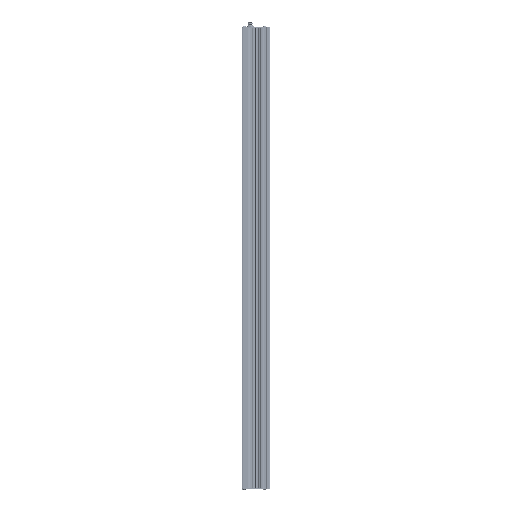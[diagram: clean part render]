
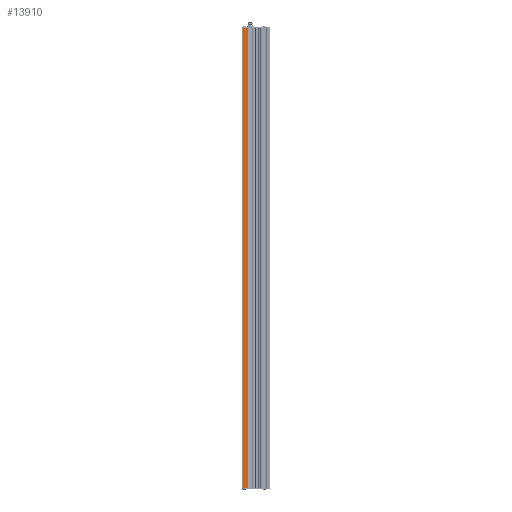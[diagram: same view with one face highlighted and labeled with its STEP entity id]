
A CAD part, left-side view. The second image highlights one B-rep face of the part: STEP entity #13910.
In plain terms, the highlighted planar face has unit normal (-1, 0, 0).
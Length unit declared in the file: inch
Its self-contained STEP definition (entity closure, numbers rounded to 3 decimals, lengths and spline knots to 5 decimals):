
#1418 = DIRECTION ( 'NONE',  ( 1., 0., 0. ) ) ;
#1548 = LINE ( 'NONE', #34040, #38209 ) ;
#1861 = VECTOR ( 'NONE', #26598, 39.37008 ) ;
#2392 = EDGE_CURVE ( 'NONE', #5854, #35850, #1548, .T. ) ;
#5440 = DIRECTION ( 'NONE',  ( 0., 0., -1. ) ) ;
#5854 = VERTEX_POINT ( 'NONE', #27843 ) ;
#7768 = ORIENTED_EDGE ( 'NONE', *, *, #13180, .F. ) ;
#10304 = FACE_OUTER_BOUND ( 'NONE', #37023, .T. ) ;
#11590 = CARTESIAN_POINT ( 'NONE',  ( -1.76811, 1.342, 23.5 ) ) ;
#13180 = EDGE_CURVE ( 'NONE', #23845, #32343, #25837, .T. ) ;
#13449 = DIRECTION ( 'NONE',  ( 0., 1., 0. ) ) ;
#13746 = VECTOR ( 'NONE', #29113, 39.37008 ) ;
#13910 = ADVANCED_FACE ( 'NONE', ( #10304 ), #22309, .F. ) ;
#15159 = VECTOR ( 'NONE', #5440, 39.37008 ) ;
#18921 = ORIENTED_EDGE ( 'NONE', *, *, #25824, .F. ) ;
#22309 = PLANE ( 'NONE',  #23415 ) ;
#23415 = AXIS2_PLACEMENT_3D ( 'NONE', #28418, #1418, #13449 ) ;
#23845 = VERTEX_POINT ( 'NONE', #25071 ) ;
#25071 = CARTESIAN_POINT ( 'NONE',  ( -1.76811, 1.342, 23.5 ) ) ;
#25824 = EDGE_CURVE ( 'NONE', #32343, #35850, #36312, .T. ) ;
#25837 = LINE ( 'NONE', #29153, #1861 ) ;
#26598 = DIRECTION ( 'NONE',  ( 0., -1., 0. ) ) ;
#27759 = DIRECTION ( 'NONE',  ( 0., -1., 0. ) ) ;
#27843 = CARTESIAN_POINT ( 'NONE',  ( -1.76811, 1.342, -23.5 ) ) ;
#28418 = CARTESIAN_POINT ( 'NONE',  ( -1.76811, 1.342, 23.5 ) ) ;
#28870 = CARTESIAN_POINT ( 'NONE',  ( -1.76811, 0.75971, 23.5 ) ) ;
#29113 = DIRECTION ( 'NONE',  ( 0., 0., -1. ) ) ;
#29153 = CARTESIAN_POINT ( 'NONE',  ( -1.76811, 1.342, 23.5 ) ) ;
#30592 = CARTESIAN_POINT ( 'NONE',  ( -1.76811, 0.75971, 23.5 ) ) ;
#31710 = CARTESIAN_POINT ( 'NONE',  ( -1.76811, 0.75971, -23.5 ) ) ;
#32269 = LINE ( 'NONE', #11590, #13746 ) ;
#32343 = VERTEX_POINT ( 'NONE', #28870 ) ;
#33192 = EDGE_CURVE ( 'NONE', #23845, #5854, #32269, .T. ) ;
#34040 = CARTESIAN_POINT ( 'NONE',  ( -1.76811, 1.342, -23.5 ) ) ;
#34435 = ORIENTED_EDGE ( 'NONE', *, *, #33192, .T. ) ;
#35850 = VERTEX_POINT ( 'NONE', #31710 ) ;
#36312 = LINE ( 'NONE', #30592, #15159 ) ;
#36426 = ORIENTED_EDGE ( 'NONE', *, *, #2392, .T. ) ;
#37023 = EDGE_LOOP ( 'NONE', ( #36426, #18921, #7768, #34435 ) ) ;
#38209 = VECTOR ( 'NONE', #27759, 39.37008 ) ;
